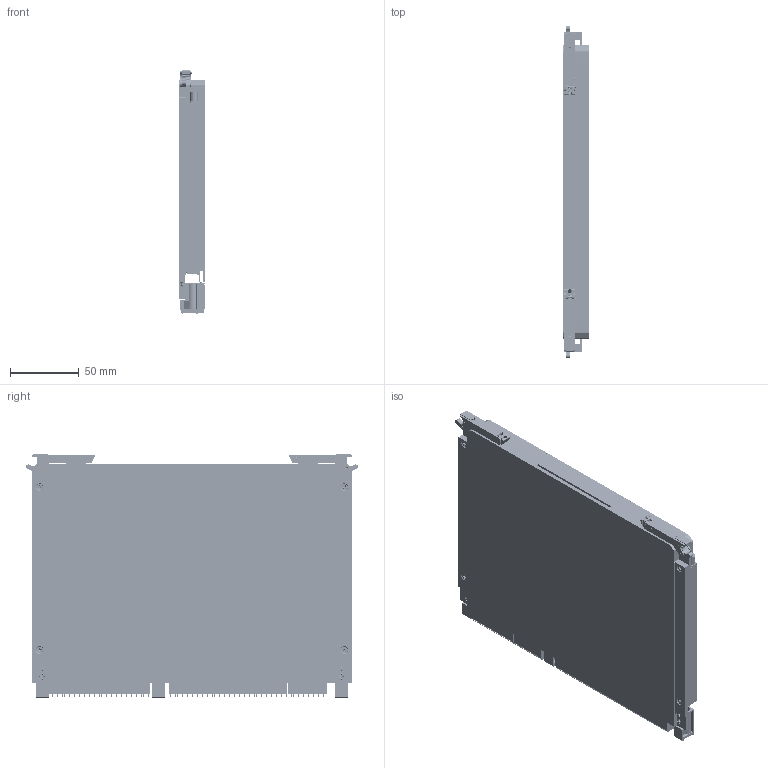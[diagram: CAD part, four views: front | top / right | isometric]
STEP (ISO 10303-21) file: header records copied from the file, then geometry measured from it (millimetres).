
FILE_DESCRIPTION (( 'STEP AP214' ), '1' );
FILE_NAME ('6U-VPX48.2-PS-265-311-TC.STEP', '2018-06-19T14:16:21', ( '' ), ( '' ), 'SwSTEP 2.0', 'SolidWorks 2014', '' );
FILE_SCHEMA (( 'AUTOMOTIVE_DESIGN' ));
Length unit declared in the file: inch
Products named in the file (20): c-2102060-1-e-3d; 714362164; PMC-XMC BOARD_PMC XMC VITA 20 VITA 42; VPX BOARD ASSEMBLY_6UXMC VITA 42; 714390164; c-2102061-1-g-3d; 1410189-3; 1774226_1-1469492-9; 1410187-3; VPX BOARD_6U VITA 42 SINGLE XMC PMC_311-TC; CCA FRAME ASSEMBLY_311-TC_6UVPX48.2-800-265 FRAME ASSEMBLY PSR - ALTERNATE LEVER; 265-4.80; RH 311-TC_SDG; LH 311-TC_SDG; 322307-18_92010A016; FRAME_311-TC_6UVPX48.2-800-265 PSR - ALTERNATE LEVER; PMC-XMC COVER; SECONDARY SIDE COVER_311-TC_265; 6U-VPX48.2-PS-265-311-TC; Single Mezzanine board assembly
Assembly tree (53 placements, depth 3):
  6U-VPX48.2-PS-265-311-TC
    CCA FRAME ASSEMBLY_311-TC_6UVPX48.2-800-265 FRAME ASSEMBLY PSR - ALTERNATE LEVER
      FRAME_311-TC_6UVPX48.2-800-265 PSR - ALTERNATE LEVER
      322307-18_92010A016  x6
      LH 311-TC_SDG
      RH 311-TC_SDG
      265-4.80  x2
    322307-18_92010A016  x13
    VPX BOARD ASSEMBLY_6UXMC VITA 42
      VPX BOARD_6U VITA 42 SINGLE XMC PMC_311-TC
      1410187-3  x6
      1774226_1-1469492-9  x3
      1410189-3
      c-2102061-1-g-3d  x2
      714390164  x4
    Single Mezzanine board assembly
      PMC-XMC BOARD_PMC XMC VITA 20 VITA 42
      714362164  x4
      c-2102060-1-e-3d  x2
    SECONDARY SIDE COVER_311-TC_265
    PMC-XMC COVER
Bounding box: 19.09 x 242.15 x 177.58 mm (x, y, z)
Volume: 535914.7 mm3; surface area: 360703.6 mm2
Topology: 320 solids, 320 shells, 25262 faces, 67815 edges, 44732 vertices
Faces by surface type: plane 21671, cylinder 2643, bspline 587, cone 355, torus 6
Full cylindrical faces by diameter (mm): 0.356 x6, 0.43 x26, 0.5 x228, 0.559 x2, 0.635 x2, 0.813 x2, 0.864 x2, 0.965 x2, 1.05 x33, 1.067 x4, 1.092 x4, 1.2 x16, 1.213 x4, 1.219 x2, 1.321 x2, 1.524 x2, 1.6 x12, 1.651 x2, 1.702 x4, 2.032 x2, 2.05 x8, 2.2 x15, 2.5 x190, 2.55 x16, 2.7 x18, 2.794 x2, 2.9 x10, 3 x3, 3.1 x8, 4.65 x3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
Entity records: 273764 total; most frequent: CARTESIAN_POINT 70516, ORIENTED_EDGE 40794, DIRECTION 37673, EDGE_CURVE 20397, LINE 17693, VECTOR 17693, VERTEX_POINT 13699, AXIS2_PLACEMENT_3D 9990
